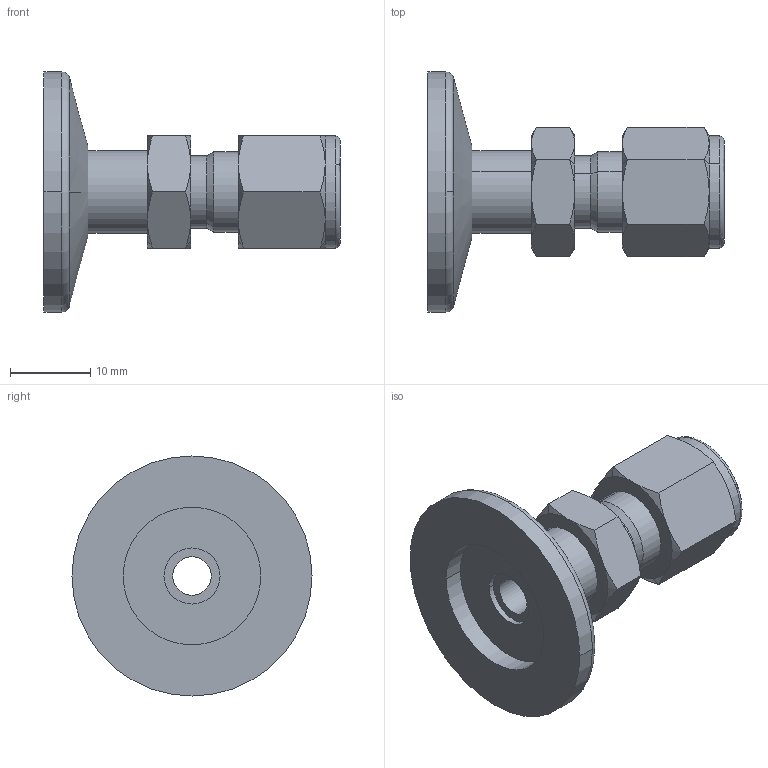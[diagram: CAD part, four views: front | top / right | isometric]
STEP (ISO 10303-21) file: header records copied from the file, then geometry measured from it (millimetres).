
FILE_DESCRIPTION((''),'2;1');
FILE_NAME('W:\3D-Model Inf_Kat\B9 KF Bauteile\211-356.stp','2003-10-02T16:19:06',('KAA'),(''),'Autodesk Inventor (R) 6.0','Autodesk Inventor (R) 6.0','');
FILE_SCHEMA(('CONFIG_CONTROL_DESIGN'));
Length unit declared in the file: millimetre
Products named in the file (1): 211-356
Bounding box: 37 x 30 x 30 mm (x, y, z)
Volume: 5533.3 mm3; surface area: 4483.1 mm2
Topology: 1 solids, 1 shells, 114 faces, 250 edges, 152 vertices
Faces by surface type: cone 50, cylinder 32, plane 28, bspline 2, torus 2
Entity records: 3265 total; most frequent: CARTESIAN_POINT 701, DIRECTION 560, ORIENTED_EDGE 500, EDGE_CURVE 250, AXIS2_PLACEMENT_3D 245, VERTEX_POINT 152, CIRCLE 132, EDGE_LOOP 130
